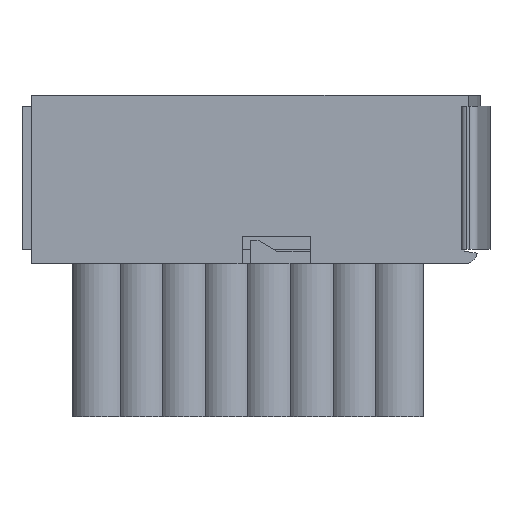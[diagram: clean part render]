
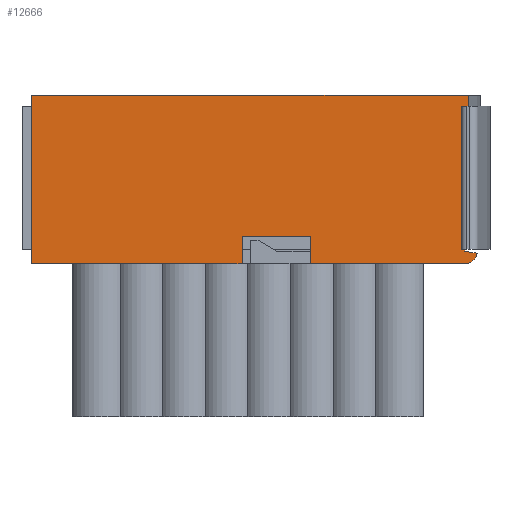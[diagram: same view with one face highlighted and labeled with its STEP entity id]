
A CAD part, front view. The second image highlights one B-rep face of the part: STEP entity #12666.
In plain terms, the highlighted planar face has unit normal (0, -1, 0).
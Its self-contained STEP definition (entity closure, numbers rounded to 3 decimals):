
#512=DIRECTION('',(-1.,0.,0.));
#513=VECTOR('',#512,0.806);
#514=CARTESIAN_POINT('',(25.836,-12.15,-1.3));
#515=LINE('',#514,#513);
#516=DIRECTION('',(0.,0.,-1.));
#517=VECTOR('',#516,16.8);
#518=CARTESIAN_POINT('',(25.03,-12.15,-1.3));
#519=LINE('',#518,#517);
#520=DIRECTION('',(-1.,0.,0.));
#521=VECTOR('',#520,0.37);
#522=CARTESIAN_POINT('',(25.4,-12.15,-18.1));
#523=LINE('',#522,#521);
#524=DIRECTION('',(0.985,0.,-0.174));
#525=VECTOR('',#524,1.5);
#526=CARTESIAN_POINT('',(25.4,-12.15,-18.3));
#527=LINE('',#526,#525);
#528=CARTESIAN_POINT('',(25.4,-12.15,-18.3));
#529=DIRECTION('',(0.,1.,0.));
#530=DIRECTION('',(0.985,0.,-0.174));
#531=AXIS2_PLACEMENT_3D('',#528,#529,#530);
#533=DIRECTION('',(0.,0.,1.));
#534=VECTOR('',#533,3.2);
#535=CARTESIAN_POINT('',(7.3,-12.15,-19.8));
#536=LINE('',#535,#534);
#537=DIRECTION('',(1.,0.,0.));
#538=VECTOR('',#537,8.);
#539=CARTESIAN_POINT('',(-0.7,-12.15,-16.6));
#540=LINE('',#539,#538);
#541=DIRECTION('',(0.,0.,1.));
#542=VECTOR('',#541,3.2);
#543=CARTESIAN_POINT('',(-0.7,-12.15,-19.8));
#544=LINE('',#543,#542);
#545=DIRECTION('',(0.,0.,-1.));
#546=VECTOR('',#545,19.8);
#547=CARTESIAN_POINT('',(-25.4,-12.15,0.));
#548=LINE('',#547,#546);
#549=DIRECTION('',(1.,0.,0.));
#550=VECTOR('',#549,51.236);
#551=CARTESIAN_POINT('',(-25.4,-12.15,0.));
#552=LINE('',#551,#550);
#565=DIRECTION('',(0.,0.,-1.));
#566=VECTOR('',#565,0.2);
#567=CARTESIAN_POINT('',(25.4,-12.15,-18.1));
#568=LINE('',#567,#566);
#7497=DIRECTION('',(1.,0.,0.));
#7498=VECTOR('',#7497,18.1);
#7499=CARTESIAN_POINT('',(7.3,-12.15,-19.8));
#7500=LINE('',#7499,#7498);
#7541=DIRECTION('',(1.,0.,0.));
#7542=VECTOR('',#7541,24.7);
#7543=CARTESIAN_POINT('',(-25.4,-12.15,-19.8));
#7544=LINE('',#7543,#7542);
#9192=DIRECTION('',(0.,0.,-1.));
#9193=VECTOR('',#9192,1.3);
#9194=CARTESIAN_POINT('',(25.836,-12.15,0.));
#9195=LINE('',#9194,#9193);
#9225=CARTESIAN_POINT('',(-25.4,-12.15,0.));
#9227=VERTEX_POINT('',#9225);
#9229=CARTESIAN_POINT('',(-25.4,-12.15,-19.8));
#9231=VERTEX_POINT('',#9229);
#9420=CARTESIAN_POINT('',(25.836,-12.15,0.));
#9422=VERTEX_POINT('',#9420);
#9424=CARTESIAN_POINT('',(25.4,-12.15,-18.3));
#9426=VERTEX_POINT('',#9424);
#9440=CARTESIAN_POINT('',(26.877,-12.15,-18.56));
#9441=CARTESIAN_POINT('',(25.4,-12.15,-19.8));
#9442=VERTEX_POINT('',#9440);
#9443=VERTEX_POINT('',#9441);
#11744=CARTESIAN_POINT('',(-0.7,-12.15,-19.8));
#11746=VERTEX_POINT('',#11744);
#11762=CARTESIAN_POINT('',(-0.7,-12.15,-16.6));
#11763=CARTESIAN_POINT('',(7.3,-12.15,-16.6));
#11764=VERTEX_POINT('',#11762);
#11765=VERTEX_POINT('',#11763);
#11766=CARTESIAN_POINT('',(7.3,-12.15,-19.8));
#11767=VERTEX_POINT('',#11766);
#12140=CARTESIAN_POINT('',(25.836,-12.15,-1.3));
#12141=CARTESIAN_POINT('',(25.03,-12.15,-1.3));
#12142=VERTEX_POINT('',#12140);
#12143=VERTEX_POINT('',#12141);
#12144=CARTESIAN_POINT('',(25.4,-12.15,-18.1));
#12145=CARTESIAN_POINT('',(25.03,-12.15,-18.1));
#12146=VERTEX_POINT('',#12144);
#12147=VERTEX_POINT('',#12145);
#12636=CARTESIAN_POINT('',(-25.4,-12.15,0.));
#12637=DIRECTION('',(0.,-1.,0.));
#12638=DIRECTION('',(1.,0.,0.));
#12639=AXIS2_PLACEMENT_3D('',#12636,#12637,#12638);
#12640=PLANE('',#12639);
#12641=ORIENTED_EDGE('',*,*,#12313,.T.);
#12642=ORIENTED_EDGE('',*,*,#12339,.T.);
#12643=ORIENTED_EDGE('',*,*,#12436,.F.);
#12645=ORIENTED_EDGE('',*,*,#12644,.T.);
#12647=ORIENTED_EDGE('',*,*,#12646,.T.);
#12649=ORIENTED_EDGE('',*,*,#12648,.T.);
#12651=ORIENTED_EDGE('',*,*,#12650,.F.);
#12653=ORIENTED_EDGE('',*,*,#12652,.T.);
#12655=ORIENTED_EDGE('',*,*,#12654,.F.);
#12657=ORIENTED_EDGE('',*,*,#12656,.F.);
#12659=ORIENTED_EDGE('',*,*,#12658,.F.);
#12660=ORIENTED_EDGE('',*,*,#12594,.F.);
#12661=ORIENTED_EDGE('',*,*,#12173,.T.);
#12663=ORIENTED_EDGE('',*,*,#12662,.T.);
#12664=EDGE_LOOP('',(#12641,#12642,#12643,#12645,#12647,#12649,#12651,#12653,
#12655,#12657,#12659,#12660,#12661,#12663));
#12665=FACE_OUTER_BOUND('',#12664,.F.);
#12666=ADVANCED_FACE('',(#12665),#12640,.T.);
#532=CIRCLE('',#531,1.5);
#12173=EDGE_CURVE('',#9227,#9422,#552,.T.);
#12313=EDGE_CURVE('',#12142,#12143,#515,.T.);
#12339=EDGE_CURVE('',#12143,#12147,#519,.T.);
#12436=EDGE_CURVE('',#12146,#12147,#523,.T.);
#12594=EDGE_CURVE('',#9227,#9231,#548,.T.);
#12644=EDGE_CURVE('',#12146,#9426,#568,.T.);
#12646=EDGE_CURVE('',#9426,#9442,#527,.T.);
#12648=EDGE_CURVE('',#9442,#9443,#532,.T.);
#12650=EDGE_CURVE('',#11767,#9443,#7500,.T.);
#12652=EDGE_CURVE('',#11767,#11765,#536,.T.);
#12654=EDGE_CURVE('',#11764,#11765,#540,.T.);
#12656=EDGE_CURVE('',#11746,#11764,#544,.T.);
#12658=EDGE_CURVE('',#9231,#11746,#7544,.T.);
#12662=EDGE_CURVE('',#9422,#12142,#9195,.T.);
